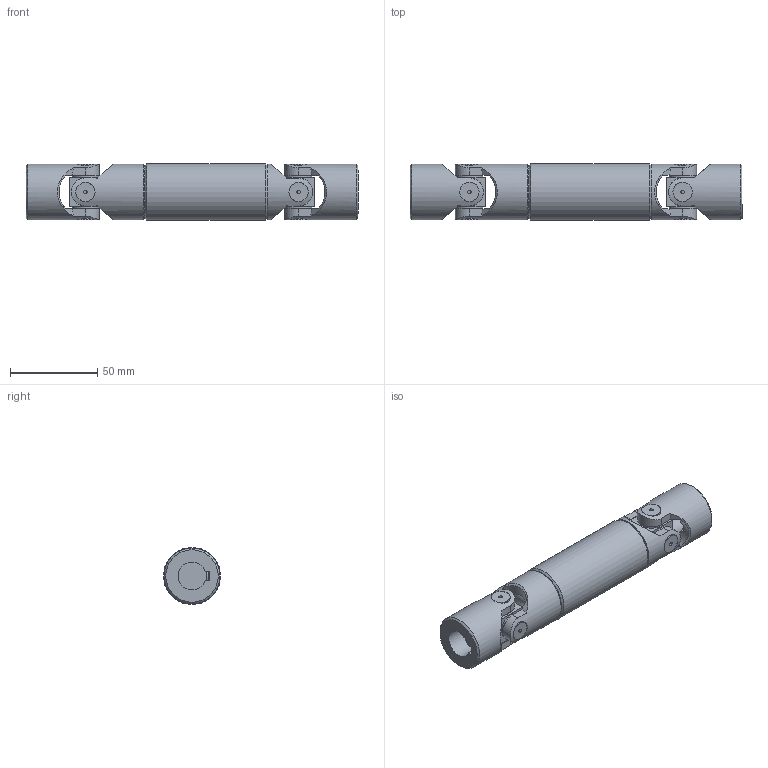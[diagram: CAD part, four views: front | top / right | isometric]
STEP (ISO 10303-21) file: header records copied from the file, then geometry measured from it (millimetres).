
FILE_DESCRIPTION(/* description */ (''),/* implementation_level */ '2;1');
FILE_NAME(/* name */ '\\SRV2016\Societa\Stefano\Disegni 3D\00Catalogo 3D\03Trasmissioni standard GA\1GA1\1GA1_SG0A1610.stp',/* time_stamp */ '2022-02-16T13:06:07+01:00',/* author */ ('acquisti'),/* organization */ (''),/* preprocessor_version */ 'ST-DEVELOPER v15.6',/* originating_system */ 'Autodesk Inventor 2015',/* authorisation */ '');
FILE_SCHEMA (('AUTOMOTIVE_DESIGN { 1 0 10303 214 3 1 1 }'));
Length unit declared in the file: millimetre
Products named in the file (5): 1GA1 LAI; 1GA1 LCI; 1G MOC; 1G SFE; 1GA1_SG0A1610
Assembly tree (6 placements, depth 2):
  1GA1_SG0A1610
    1GA1 LAI
    1GA1 LCI
    1G MOC  x2
    1G SFE  x2
Bounding box: 190 x 32.5 x 32.5 mm (x, y, z)
Volume: 118160.9 mm3; surface area: 41597 mm2
Topology: 6 solids, 6 shells, 228 faces, 551 edges, 359 vertices
Faces by surface type: plane 106, cylinder 93, cone 25, torus 4
Full cylindrical faces by diameter (mm): 2 x8, 15.5 x8, 16 x1, 18 x2, 27 x1, 32 x4, 32.5 x1
Entity records: 5689 total; most frequent: CARTESIAN_POINT 1639, DIRECTION 823, ORIENTED_EDGE 796, EDGE_CURVE 398, AXIS2_PLACEMENT_3D 335, VERTEX_POINT 274, EDGE_LOOP 224, FACE_OUTER_BOUND 176
